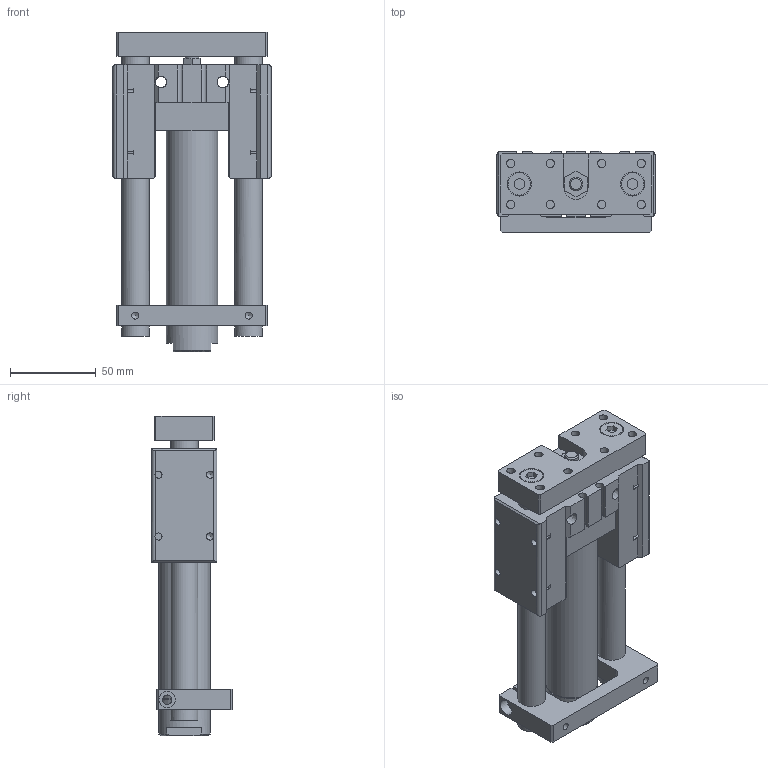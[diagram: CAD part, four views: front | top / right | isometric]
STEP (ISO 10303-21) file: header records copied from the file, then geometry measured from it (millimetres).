
FILE_DESCRIPTION((''),'2;1');
FILE_NAME('I:\3D電子目錄\氣缸\TMB(U)\TMB(U)\TMB(U)25\TMB(U)25x75.stp','2007-10-05T09:30:23',('Administrator'),(''),'Autodesk Inventor 11','Autodesk Inventor 11','');
FILE_SCHEMA(('AUTOMOTIVE_DESIGN { 1 0 10303 214 1 1 1 1 }'));
Length unit declared in the file: millimetre
Products named in the file (1): TMB(U)25
Bounding box: 92 x 47 x 186 mm (x, y, z)
Volume: 350754.2 mm3; surface area: 74418.2 mm2
Topology: 1 solids, 1 shells, 243 faces, 727 edges, 476 vertices
Faces by surface type: plane 149, bspline 49, cylinder 28, cone 17
Full cylindrical faces by diameter (mm): 4.134 x4, 5.5 x1, 8 x2, 9.5 x1, 13 x2, 14 x2, 16 x3, 30 x2
Entity records: 8294 total; most frequent: CARTESIAN_POINT 2323, ORIENTED_EDGE 1234, DIRECTION 1136, EDGE_CURVE 617, VERTEX_POINT 433, VECTOR 408, LINE 408, AXIS2_PLACEMENT_3D 364
